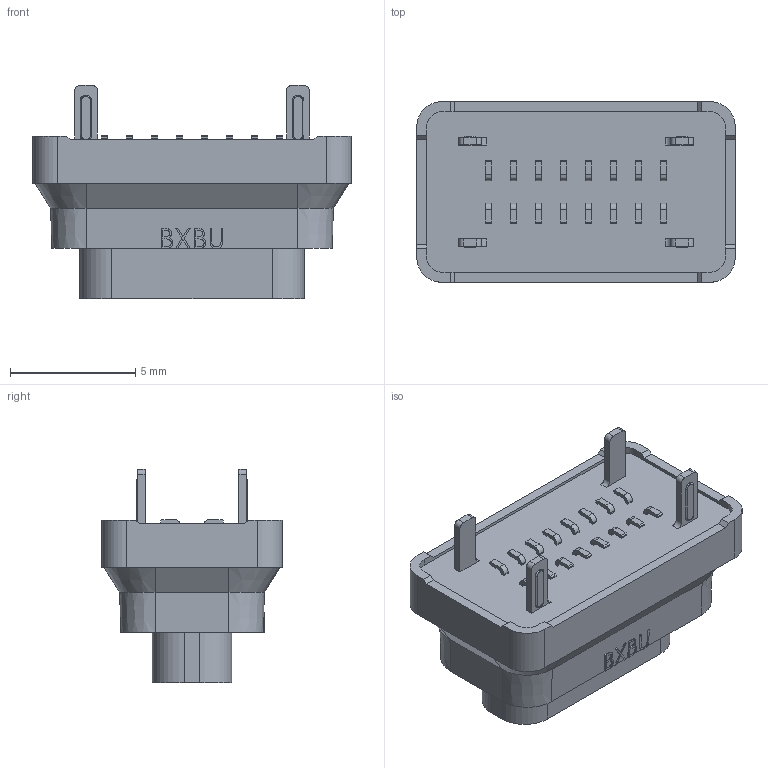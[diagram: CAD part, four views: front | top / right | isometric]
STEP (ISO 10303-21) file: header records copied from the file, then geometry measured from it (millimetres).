
FILE_DESCRIPTION (( 'STEP AP203' ), '1' );
FILE_NAME ('U5455-16PN6.5LF.STEP', '2026-09-01T08:02:24', ( '' ), ( '' ), 'SwSTEP 2.0', 'SolidWorks 2024', '' );
FILE_SCHEMA (( 'CONFIG_CONTROL_DESIGN' ));
Length unit declared in the file: millimetre
Products named in the file (1): U5455-16PN6.5LF
Bounding box: 12.7 x 7.2 x 8.5 mm (x, y, z)
Volume: 309.9 mm3; surface area: 557.9 mm2
Topology: 1 solids, 1 shells, 557 faces, 1541 edges, 1018 vertices
Faces by surface type: plane 403, cylinder 96, bspline 25, cone 17, torus 16
Entity records: 19207 total; most frequent: CARTESIAN_POINT 4943, ORIENTED_EDGE 3082, DIRECTION 2738, EDGE_CURVE 1541, VECTOR 1212, LINE 1212, VERTEX_POINT 1018, AXIS2_PLACEMENT_3D 763
